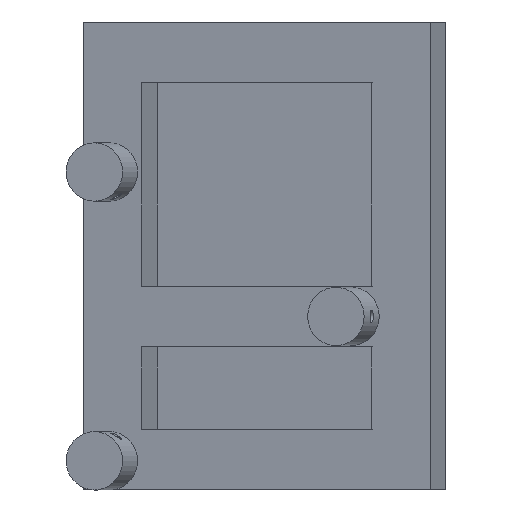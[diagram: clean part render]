
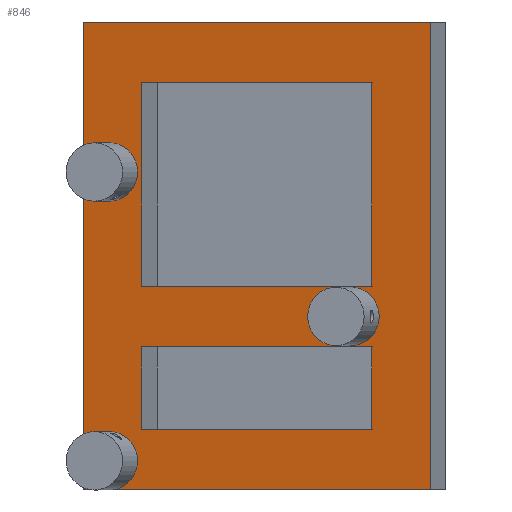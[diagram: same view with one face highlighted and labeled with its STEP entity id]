
A CAD part, left-side view. The second image highlights one B-rep face of the part: STEP entity #846.
In plain terms, the highlighted planar face has unit normal (-0.966, 0.259, 0).
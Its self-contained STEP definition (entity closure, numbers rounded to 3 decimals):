
#58=FACE_BOUND('',#198,.T.);
#59=FACE_BOUND('',#199,.T.);
#60=FACE_BOUND('',#200,.T.);
#61=FACE_BOUND('',#201,.T.);
#62=FACE_BOUND('',#202,.T.);
#142=FACE_OUTER_BOUND('',#197,.T.);
#197=EDGE_LOOP('',(#605,#606,#607,#608));
#198=EDGE_LOOP('',(#609,#610,#611,#612));
#199=EDGE_LOOP('',(#613,#614,#615,#616));
#200=EDGE_LOOP('',(#617));
#201=EDGE_LOOP('',(#618));
#202=EDGE_LOOP('',(#619));
#277=CIRCLE('',#901,20.9);
#278=CIRCLE('',#902,20.9);
#279=CIRCLE('',#903,20.9);
#296=LINE('',#1782,#340);
#302=LINE('',#1794,#346);
#303=LINE('',#1797,#347);
#306=LINE('',#1803,#350);
#311=LINE('',#1812,#355);
#314=LINE('',#1820,#358);
#316=LINE('',#1824,#360);
#317=LINE('',#1826,#361);
#318=LINE('',#1827,#362);
#319=LINE('',#1829,#363);
#320=LINE('',#1830,#364);
#321=LINE('',#1831,#365);
#340=VECTOR('',#994,197.321);
#346=VECTOR('',#1002,197.321);
#347=VECTOR('',#1005,68.5);
#350=VECTOR('',#1010,168.8);
#355=VECTOR('',#1017,197.321);
#358=VECTOR('',#1022,387.3);
#360=VECTOR('',#1026,297.321);
#361=VECTOR('',#1027,297.321);
#362=VECTOR('',#1028,387.3);
#363=VECTOR('',#1029,168.8);
#364=VECTOR('',#1030,197.321);
#365=VECTOR('',#1031,68.5);
#397=VERTEX_POINT('',#1778);
#399=VERTEX_POINT('',#1781);
#402=VERTEX_POINT('',#1788);
#404=VERTEX_POINT('',#1792);
#405=VERTEX_POINT('',#1796);
#407=VERTEX_POINT('',#1802);
#410=VERTEX_POINT('',#1809);
#413=VERTEX_POINT('',#1817);
#414=VERTEX_POINT('',#1819);
#415=VERTEX_POINT('',#1823);
#416=VERTEX_POINT('',#1825);
#417=VERTEX_POINT('',#1828);
#418=VERTEX_POINT('',#1832);
#419=VERTEX_POINT('',#1834);
#420=VERTEX_POINT('',#1836);
#478=EDGE_CURVE('',#397,#399,#296,.T.);
#484=EDGE_CURVE('',#402,#404,#302,.T.);
#485=EDGE_CURVE('',#405,#399,#303,.T.);
#488=EDGE_CURVE('',#402,#407,#306,.T.);
#493=EDGE_CURVE('',#405,#410,#311,.T.);
#496=EDGE_CURVE('',#414,#413,#314,.T.);
#498=EDGE_CURVE('',#415,#414,#316,.T.);
#499=EDGE_CURVE('',#416,#413,#317,.T.);
#500=EDGE_CURVE('',#415,#416,#318,.T.);
#501=EDGE_CURVE('',#404,#417,#319,.T.);
#502=EDGE_CURVE('',#407,#417,#320,.T.);
#503=EDGE_CURVE('',#410,#397,#321,.T.);
#504=EDGE_CURVE('',#418,#418,#277,.T.);
#505=EDGE_CURVE('',#419,#419,#278,.T.);
#506=EDGE_CURVE('',#420,#420,#279,.T.);
#605=ORIENTED_EDGE('',*,*,#498,.T.);
#606=ORIENTED_EDGE('',*,*,#496,.T.);
#607=ORIENTED_EDGE('',*,*,#499,.F.);
#608=ORIENTED_EDGE('',*,*,#500,.F.);
#609=ORIENTED_EDGE('',*,*,#501,.T.);
#610=ORIENTED_EDGE('',*,*,#502,.F.);
#611=ORIENTED_EDGE('',*,*,#488,.F.);
#612=ORIENTED_EDGE('',*,*,#484,.T.);
#613=ORIENTED_EDGE('',*,*,#478,.F.);
#614=ORIENTED_EDGE('',*,*,#503,.F.);
#615=ORIENTED_EDGE('',*,*,#493,.F.);
#616=ORIENTED_EDGE('',*,*,#485,.T.);
#617=ORIENTED_EDGE('',*,*,#504,.F.);
#618=ORIENTED_EDGE('',*,*,#505,.F.);
#619=ORIENTED_EDGE('',*,*,#506,.F.);
#767=PLANE('',#900);
#846=ADVANCED_FACE('',(#142,#58,#59,#60,#61,#62),#767,.T.);
#900=AXIS2_PLACEMENT_3D('',#1822,#1024,#1025);
#901=AXIS2_PLACEMENT_3D('',#1833,#1032,#1033);
#902=AXIS2_PLACEMENT_3D('',#1835,#1034,#1035);
#903=AXIS2_PLACEMENT_3D('',#1837,#1036,#1037);
#994=DIRECTION('',(0.259,0.966,0.));
#1002=DIRECTION('',(0.259,0.966,0.));
#1005=DIRECTION('',(0.,0.,1.));
#1010=DIRECTION('',(0.,0.,1.));
#1017=DIRECTION('',(-0.259,-0.966,0.));
#1022=DIRECTION('',(0.,0.,1.));
#1024=DIRECTION('center_axis',(-0.966,0.259,0.));
#1025=DIRECTION('ref_axis',(-0.259,-0.966,0.));
#1026=DIRECTION('',(-0.259,-0.966,0.));
#1027=DIRECTION('',(-0.259,-0.966,0.));
#1028=DIRECTION('',(0.,0.,1.));
#1029=DIRECTION('',(0.,0.,1.));
#1030=DIRECTION('',(0.259,0.966,0.));
#1031=DIRECTION('',(0.,0.,1.));
#1032=DIRECTION('center_axis',(-0.966,0.259,0.));
#1033=DIRECTION('ref_axis',(0.129,0.483,-0.866));
#1034=DIRECTION('center_axis',(-0.966,0.259,0.));
#1035=DIRECTION('ref_axis',(-0.259,-0.966,0.));
#1036=DIRECTION('center_axis',(-0.966,0.259,0.));
#1037=DIRECTION('ref_axis',(0.129,0.483,0.866));
#1778=CARTESIAN_POINT('',(-35.362,37.064,94.35));
#1781=CARTESIAN_POINT('',(15.709,227.661,94.35));
#1782=CARTESIAN_POINT('',(-35.362,37.064,94.35));
#1788=CARTESIAN_POINT('',(-35.362,37.064,144.35));
#1792=CARTESIAN_POINT('',(15.709,227.661,144.35));
#1794=CARTESIAN_POINT('',(-35.362,37.064,144.35));
#1796=CARTESIAN_POINT('',(15.709,227.661,25.85));
#1797=CARTESIAN_POINT('',(15.709,227.661,-24.15));
#1802=CARTESIAN_POINT('',(-35.362,37.064,313.15));
#1803=CARTESIAN_POINT('',(-35.362,37.064,-24.15));
#1809=CARTESIAN_POINT('',(-35.362,37.064,25.85));
#1812=CARTESIAN_POINT('',(28.65,275.958,25.85));
#1817=CARTESIAN_POINT('',(-48.303,-11.232,363.15));
#1819=CARTESIAN_POINT('',(-48.303,-11.232,-24.15));
#1820=CARTESIAN_POINT('',(-48.303,-11.232,-24.15));
#1822=CARTESIAN_POINT('Origin',(-35.362,37.064,-24.15));
#1823=CARTESIAN_POINT('',(28.65,275.958,-24.15));
#1824=CARTESIAN_POINT('',(28.65,275.958,-24.15));
#1825=CARTESIAN_POINT('',(28.65,275.958,363.15));
#1826=CARTESIAN_POINT('',(28.65,275.958,363.15));
#1827=CARTESIAN_POINT('',(28.65,275.958,-24.15));
#1828=CARTESIAN_POINT('',(15.709,227.661,313.15));
#1829=CARTESIAN_POINT('',(15.709,227.661,-24.15));
#1830=CARTESIAN_POINT('',(-48.303,-11.232,313.15));
#1831=CARTESIAN_POINT('',(-35.362,37.064,-24.15));
#1832=CARTESIAN_POINT('',(25.104,262.725,-18.1));
#1833=CARTESIAN_POINT('Origin',(22.399,252.631,0.));
#1834=CARTESIAN_POINT('',(-35.362,37.064,106.284));
#1835=CARTESIAN_POINT('Origin',(-31.171,52.703,119.5));
#1836=CARTESIAN_POINT('',(25.104,262.725,257.1));
#1837=CARTESIAN_POINT('Origin',(22.399,252.631,239.));
